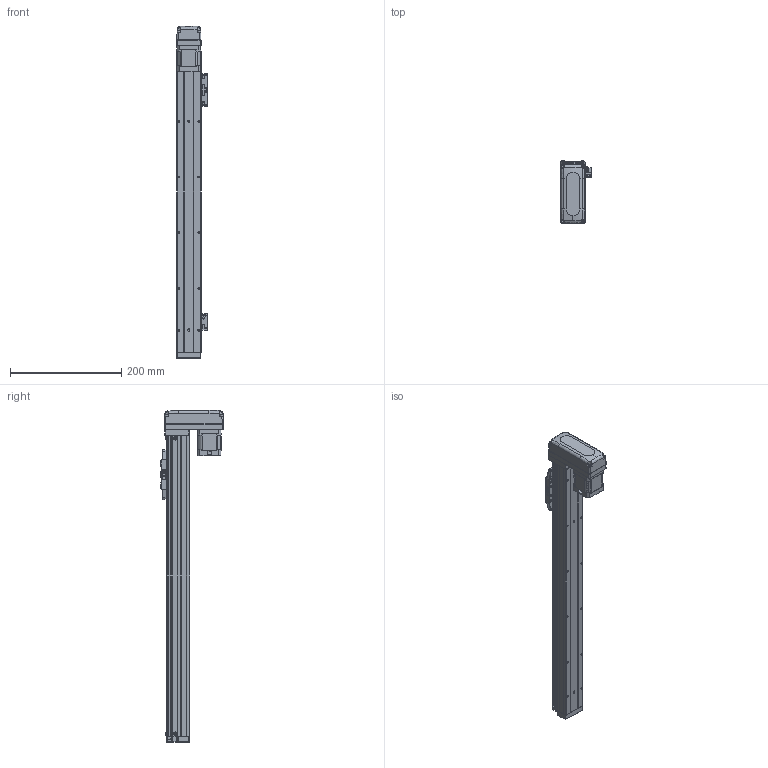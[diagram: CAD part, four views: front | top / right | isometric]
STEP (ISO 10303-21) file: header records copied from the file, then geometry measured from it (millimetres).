
FILE_DESCRIPTION (( 'STEP AP203' ), '1' );
FILE_NAME ('GTH4-400-BM-B42-C4.step', '2023-02-14T00:21:21', ( '微软用户' ), ( '微软中国' ), 'SwSTEP 2.0', 'SolidWorks 2020', '' );
FILE_SCHEMA (( 'CONFIG_CONTROL_DESIGN' ));
Length unit declared in the file: millimetre
Products named in the file (19): BTH40-001-50_BTH40-001-400; BTH50-024; GBT 70.3-M3℅6; BTH40-003; GBT 70.1-M3℅6; BTH40-027-1; BTH40-006; GBT96.1-2002 3×0.8; BTH50-026; BTH-M3X5X6; BTH40-022; 42CM06; GBT70.1-2000 M3×16; GBT 70.1-M2.5×6; GTH4-400-BM-B42-C4; BTH50-028; BTH40-004; BTH50-023; BTH40-013
Assembly tree (47 placements, depth 2):
  GTH4-400-BM-B42-C4
    BTH40-001-50_BTH40-001-400
    BTH40-003
    BTH40-006
    BTH-M3X5X6  x8
    GBT70.1-2000 M3×16  x4
    BTH50-028  x2
    BTH50-023  x3
    BTH50-024  x3
    GBT 70.1-M3℅6  x6
    GBT96.1-2002 3×0.8  x6
    BTH40-022
    GBT 70.1-M2.5×6  x2
    BTH40-004
    BTH40-013
    GBT 70.3-M3℅6  x4
    BTH40-027-1
    BTH50-026
    42CM06
Bounding box: 55.2 x 112 x 596 mm (x, y, z)
Volume: 1077404.5 mm3; surface area: 218510.4 mm2
Topology: 56 solids, 56 shells, 3335 faces, 7772 edges, 4646 vertices
Faces by surface type: cone 1508, plane 1076, cylinder 573, torus 124, bspline 42, sphere 12
Entity records: 77890 total; most frequent: CARTESIAN_POINT 14041, DIRECTION 13845, ORIENTED_EDGE 12190, EDGE_CURVE 6095, AXIS2_PLACEMENT_3D 5313, VERTEX_POINT 3633, LINE 3219, VECTOR 3219
